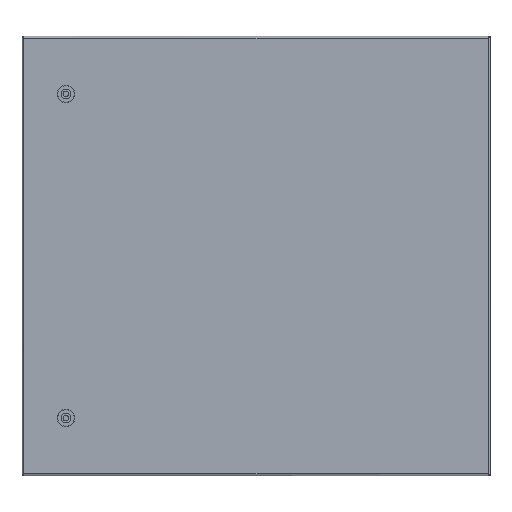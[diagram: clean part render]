
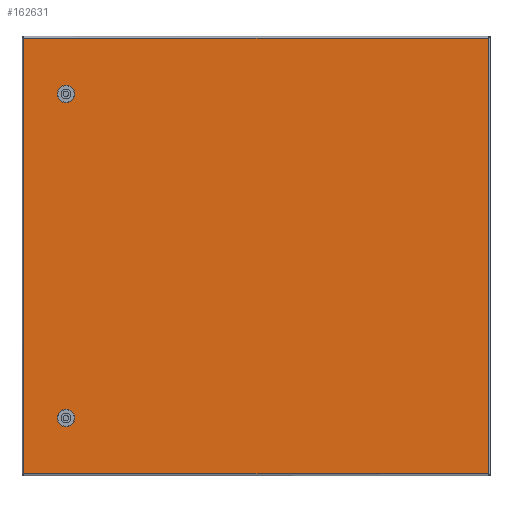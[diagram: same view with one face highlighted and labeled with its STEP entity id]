
A CAD part, top view. The second image highlights one B-rep face of the part: STEP entity #162631.
In plain terms, the highlighted planar face has unit normal (0, 0, 1).
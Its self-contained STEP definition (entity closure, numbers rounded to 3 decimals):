
#161741=CARTESIAN_POINT(' ',(2.8,0.8,0.));
#161746=DIRECTION(' ',(1.,0.,0.));
#161751=VECTOR(' ',#161746,1.);
#161756=LINE('',#161741,#161751);
#161761=CARTESIAN_POINT(' ',(2.8,0.8,0.));
#161762=VERTEX_POINT(' ',#161761);
#161766=CARTESIAN_POINT(' ',(791.2,0.8,0.));
#161767=VERTEX_POINT(' ',#161766);
#161771=EDGE_CURVE(' ',#161762,#161767,#161756,.T.);
#162491=DIRECTION(' ',(-0.,-0.,1.));
#162496=CARTESIAN_POINT(' ',(791.2,0.8,0.));
#162501=DIRECTION(' ',(0.,1.,0.));
#162506=AXIS2_PLACEMENT_3D(' ',#162496,#162491,#162501);
#162511=PLANE('NONE',#162506);
#162516=ORIENTED_EDGE(' ',*,*,#161771,.T.);
#162521=CARTESIAN_POINT(' ',(791.2,740.2,0.));
#162526=DIRECTION(' ',(0.,-1.,0.));
#162531=VECTOR(' ',#162526,1.);
#162536=LINE('',#162521,#162531);
#162541=CARTESIAN_POINT(' ',(791.2,740.2,0.));
#162542=VERTEX_POINT(' ',#162541);
#162546=EDGE_CURVE(' ',#162542,#161767,#162536,.T.);
#162551=ORIENTED_EDGE(' ',*,*,#162546,.F.);
#162556=CARTESIAN_POINT(' ',(791.2,740.2,0.));
#162561=DIRECTION(' ',(-1.,0.,0.));
#162566=VECTOR(' ',#162561,1.);
#162571=LINE('',#162556,#162566);
#162576=CARTESIAN_POINT(' ',(2.8,740.2,0.));
#162577=VERTEX_POINT(' ',#162576);
#162581=EDGE_CURVE(' ',#162542,#162577,#162571,.T.);
#162586=ORIENTED_EDGE(' ',*,*,#162581,.T.);
#162591=CARTESIAN_POINT(' ',(2.8,740.2,0.));
#162596=DIRECTION(' ',(0.,-1.,0.));
#162601=VECTOR(' ',#162596,1.);
#162606=LINE('',#162591,#162601);
#162611=EDGE_CURVE(' ',#162577,#161762,#162606,.T.);
#162616=ORIENTED_EDGE(' ',*,*,#162611,.T.);
#162621=EDGE_LOOP(' ',(#162516,#162551,#162586,#162616));
#162626=FACE_OUTER_BOUND(' ',#162621,.T.);
#162631=ADVANCED_FACE('NONE',(#162626),#162511,.T.);
